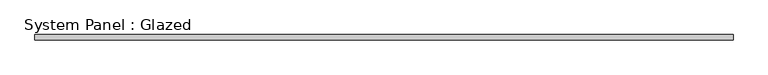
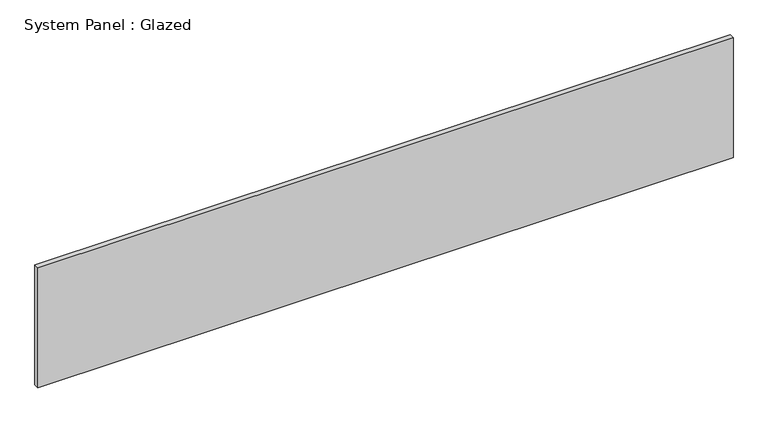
"""IFC4 building model written with IfcOpenShell, lengths in millimetres: plate geometry, System Panel : Glazed."""

from ifc_helpers import new_model, si_unit, origin, origin_with_axes, place, context, project, spatial, polyline, outline, extrude, source, transform, mapped, element, save


def system_panel_glazed_8fdd871a(model_context):
    return source(origin(), model_context, "Body", "SweptSolid", [
        extrude(outline(polyline([(1643.75, -49.5), (-1643.75, -49.5), (-1643.75, -24.5), (1643.75, -24.5), (1643.75, -49.5)])), origin_with_axes(), (0.0, 0.0, 1.0), 600.0),
    ])


if __name__ == "__main__":
    model = new_model("IFC4")
    model_context = context("Model", 3, world=origin())
    ifc_project = project(units=[si_unit("LENGTHUNIT", "METRE", prefix="MILLI")], contexts=[model_context])
    site = spatial("IfcSite", under=ifc_project)
    building = spatial("IfcBuilding", under=site)
    placement = place(None, origin())
    system_panel_glazed_shape = system_panel_glazed_8fdd871a(model_context)
    element("IfcPlate", 1, ObjectType="System Panel : Glazed", at=placement, inside=building, context=model_context, shape_type="MappedRepresentation", body=[
        mapped(system_panel_glazed_shape, transform((0.0, 0.0, 0.0), x_axis=(1.0, 0.0, 0.0), y_axis=(0.0, 1.0, 0.0), z_axis=(0.0, 0.0, 1.0))),
    ])
    save(model, "model.ifc")
